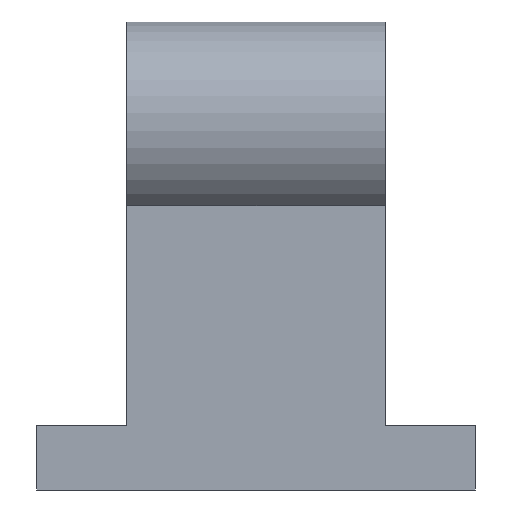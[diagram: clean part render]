
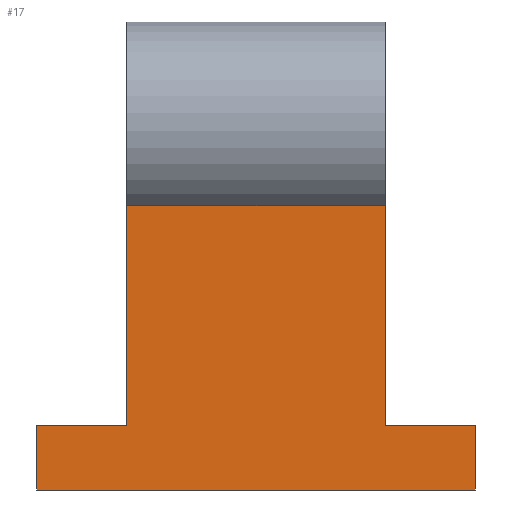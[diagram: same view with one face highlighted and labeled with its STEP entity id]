
A CAD part, left-side view. The second image highlights one B-rep face of the part: STEP entity #17.
In plain terms, the highlighted planar face has unit normal (-1, 0, 0).
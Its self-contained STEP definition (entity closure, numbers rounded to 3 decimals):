
#17 = ADVANCED_FACE('',(#18),#32,.F.);
#18 = FACE_BOUND('',#19,.F.);
#19 = EDGE_LOOP('',(#20,#55,#83,#111,#139,#162,#190,#216));
#20 = ORIENTED_EDGE('',*,*,#21,.F.);
#21 = EDGE_CURVE('',#22,#24,#26,.T.);
#22 = VERTEX_POINT('',#23);
#23 = CARTESIAN_POINT('',(-42.75,-34.,186.));
#24 = VERTEX_POINT('',#25);
#25 = CARTESIAN_POINT('',(-42.75,-20.,186.));
#26 = SURFACE_CURVE('',#27,(#31,#43),.PCURVE_S1.);
#27 = LINE('',#28,#29);
#28 = CARTESIAN_POINT('',(-42.75,-34.,186.));
#29 = VECTOR('',#30,1.);
#30 = DIRECTION('',(0.,1.,0.));
#31 = PCURVE('',#32,#37);
#32 = PLANE('',#33);
#33 = AXIS2_PLACEMENT_3D('',#34,#35,#36);
#34 = CARTESIAN_POINT('',(-42.75,-34.,176.));
#35 = DIRECTION('',(1.,0.,0.));
#36 = DIRECTION('',(0.,0.,1.));
#37 = DEFINITIONAL_REPRESENTATION('',(#38),#42);
#38 = LINE('',#39,#40);
#39 = CARTESIAN_POINT('',(10.,0.));
#40 = VECTOR('',#41,1.);
#41 = DIRECTION('',(0.,-1.));
#42 = ( GEOMETRIC_REPRESENTATION_CONTEXT(2) 
PARAMETRIC_REPRESENTATION_CONTEXT() REPRESENTATION_CONTEXT('2D SPACE',''
  ) );
#43 = PCURVE('',#44,#49);
#44 = PLANE('',#45);
#45 = AXIS2_PLACEMENT_3D('',#46,#47,#48);
#46 = CARTESIAN_POINT('',(-42.75,-34.,186.));
#47 = DIRECTION('',(0.,0.,1.));
#48 = DIRECTION('',(1.,0.,0.));
#49 = DEFINITIONAL_REPRESENTATION('',(#50),#54);
#50 = LINE('',#51,#52);
#51 = CARTESIAN_POINT('',(0.,0.));
#52 = VECTOR('',#53,1.);
#53 = DIRECTION('',(0.,1.));
#54 = ( GEOMETRIC_REPRESENTATION_CONTEXT(2) 
PARAMETRIC_REPRESENTATION_CONTEXT() REPRESENTATION_CONTEXT('2D SPACE',''
  ) );
#55 = ORIENTED_EDGE('',*,*,#56,.F.);
#56 = EDGE_CURVE('',#57,#22,#59,.T.);
#57 = VERTEX_POINT('',#58);
#58 = CARTESIAN_POINT('',(-42.75,-34.,176.));
#59 = SURFACE_CURVE('',#60,(#64,#71),.PCURVE_S1.);
#60 = LINE('',#61,#62);
#61 = CARTESIAN_POINT('',(-42.75,-34.,176.));
#62 = VECTOR('',#63,1.);
#63 = DIRECTION('',(0.,0.,1.));
#64 = PCURVE('',#32,#65);
#65 = DEFINITIONAL_REPRESENTATION('',(#66),#70);
#66 = LINE('',#67,#68);
#67 = CARTESIAN_POINT('',(0.,0.));
#68 = VECTOR('',#69,1.);
#69 = DIRECTION('',(1.,0.));
#70 = ( GEOMETRIC_REPRESENTATION_CONTEXT(2) 
PARAMETRIC_REPRESENTATION_CONTEXT() REPRESENTATION_CONTEXT('2D SPACE',''
  ) );
#71 = PCURVE('',#72,#77);
#72 = PLANE('',#73);
#73 = AXIS2_PLACEMENT_3D('',#74,#75,#76);
#74 = CARTESIAN_POINT('',(-42.75,-34.,176.));
#75 = DIRECTION('',(0.,1.,0.));
#76 = DIRECTION('',(0.,0.,1.));
#77 = DEFINITIONAL_REPRESENTATION('',(#78),#82);
#78 = LINE('',#79,#80);
#79 = CARTESIAN_POINT('',(0.,0.));
#80 = VECTOR('',#81,1.);
#81 = DIRECTION('',(1.,0.));
#82 = ( GEOMETRIC_REPRESENTATION_CONTEXT(2) 
PARAMETRIC_REPRESENTATION_CONTEXT() REPRESENTATION_CONTEXT('2D SPACE',''
  ) );
#83 = ORIENTED_EDGE('',*,*,#84,.T.);
#84 = EDGE_CURVE('',#57,#85,#87,.T.);
#85 = VERTEX_POINT('',#86);
#86 = CARTESIAN_POINT('',(-42.75,34.,176.));
#87 = SURFACE_CURVE('',#88,(#92,#99),.PCURVE_S1.);
#88 = LINE('',#89,#90);
#89 = CARTESIAN_POINT('',(-42.75,-34.,176.));
#90 = VECTOR('',#91,1.);
#91 = DIRECTION('',(0.,1.,0.));
#92 = PCURVE('',#32,#93);
#93 = DEFINITIONAL_REPRESENTATION('',(#94),#98);
#94 = LINE('',#95,#96);
#95 = CARTESIAN_POINT('',(0.,0.));
#96 = VECTOR('',#97,1.);
#97 = DIRECTION('',(0.,-1.));
#98 = ( GEOMETRIC_REPRESENTATION_CONTEXT(2) 
PARAMETRIC_REPRESENTATION_CONTEXT() REPRESENTATION_CONTEXT('2D SPACE',''
  ) );
#99 = PCURVE('',#100,#105);
#100 = PLANE('',#101);
#101 = AXIS2_PLACEMENT_3D('',#102,#103,#104);
#102 = CARTESIAN_POINT('',(-42.75,-34.,176.));
#103 = DIRECTION('',(0.,0.,1.));
#104 = DIRECTION('',(1.,0.,0.));
#105 = DEFINITIONAL_REPRESENTATION('',(#106),#110);
#106 = LINE('',#107,#108);
#107 = CARTESIAN_POINT('',(0.,0.));
#108 = VECTOR('',#109,1.);
#109 = DIRECTION('',(0.,1.));
#110 = ( GEOMETRIC_REPRESENTATION_CONTEXT(2) 
PARAMETRIC_REPRESENTATION_CONTEXT() REPRESENTATION_CONTEXT('2D SPACE',''
  ) );
#111 = ORIENTED_EDGE('',*,*,#112,.T.);
#112 = EDGE_CURVE('',#85,#113,#115,.T.);
#113 = VERTEX_POINT('',#114);
#114 = CARTESIAN_POINT('',(-42.75,34.,186.));
#115 = SURFACE_CURVE('',#116,(#120,#127),.PCURVE_S1.);
#116 = LINE('',#117,#118);
#117 = CARTESIAN_POINT('',(-42.75,34.,176.));
#118 = VECTOR('',#119,1.);
#119 = DIRECTION('',(0.,0.,1.));
#120 = PCURVE('',#32,#121);
#121 = DEFINITIONAL_REPRESENTATION('',(#122),#126);
#122 = LINE('',#123,#124);
#123 = CARTESIAN_POINT('',(0.,-68.));
#124 = VECTOR('',#125,1.);
#125 = DIRECTION('',(1.,0.));
#126 = ( GEOMETRIC_REPRESENTATION_CONTEXT(2) 
PARAMETRIC_REPRESENTATION_CONTEXT() REPRESENTATION_CONTEXT('2D SPACE',''
  ) );
#127 = PCURVE('',#128,#133);
#128 = PLANE('',#129);
#129 = AXIS2_PLACEMENT_3D('',#130,#131,#132);
#130 = CARTESIAN_POINT('',(-42.75,34.,176.));
#131 = DIRECTION('',(0.,1.,0.));
#132 = DIRECTION('',(0.,0.,1.));
#133 = DEFINITIONAL_REPRESENTATION('',(#134),#138);
#134 = LINE('',#135,#136);
#135 = CARTESIAN_POINT('',(0.,0.));
#136 = VECTOR('',#137,1.);
#137 = DIRECTION('',(1.,0.));
#138 = ( GEOMETRIC_REPRESENTATION_CONTEXT(2) 
PARAMETRIC_REPRESENTATION_CONTEXT() REPRESENTATION_CONTEXT('2D SPACE',''
  ) );
#139 = ORIENTED_EDGE('',*,*,#140,.F.);
#140 = EDGE_CURVE('',#141,#113,#143,.T.);
#141 = VERTEX_POINT('',#142);
#142 = CARTESIAN_POINT('',(-42.75,20.,186.));
#143 = SURFACE_CURVE('',#144,(#148,#155),.PCURVE_S1.);
#144 = LINE('',#145,#146);
#145 = CARTESIAN_POINT('',(-42.75,-34.,186.));
#146 = VECTOR('',#147,1.);
#147 = DIRECTION('',(0.,1.,0.));
#148 = PCURVE('',#32,#149);
#149 = DEFINITIONAL_REPRESENTATION('',(#150),#154);
#150 = LINE('',#151,#152);
#151 = CARTESIAN_POINT('',(10.,0.));
#152 = VECTOR('',#153,1.);
#153 = DIRECTION('',(0.,-1.));
#154 = ( GEOMETRIC_REPRESENTATION_CONTEXT(2) 
PARAMETRIC_REPRESENTATION_CONTEXT() REPRESENTATION_CONTEXT('2D SPACE',''
  ) );
#155 = PCURVE('',#44,#156);
#156 = DEFINITIONAL_REPRESENTATION('',(#157),#161);
#157 = LINE('',#158,#159);
#158 = CARTESIAN_POINT('',(0.,0.));
#159 = VECTOR('',#160,1.);
#160 = DIRECTION('',(0.,1.));
#161 = ( GEOMETRIC_REPRESENTATION_CONTEXT(2) 
PARAMETRIC_REPRESENTATION_CONTEXT() REPRESENTATION_CONTEXT('2D SPACE',''
  ) );
#162 = ORIENTED_EDGE('',*,*,#163,.T.);
#163 = EDGE_CURVE('',#141,#164,#166,.T.);
#164 = VERTEX_POINT('',#165);
#165 = CARTESIAN_POINT('',(-42.75,20.,220.05));
#166 = SURFACE_CURVE('',#167,(#171,#178),.PCURVE_S1.);
#167 = LINE('',#168,#169);
#168 = CARTESIAN_POINT('',(-42.75,20.,185.));
#169 = VECTOR('',#170,1.);
#170 = DIRECTION('',(0.,0.,1.));
#171 = PCURVE('',#32,#172);
#172 = DEFINITIONAL_REPRESENTATION('',(#173),#177);
#173 = LINE('',#174,#175);
#174 = CARTESIAN_POINT('',(9.,-54.));
#175 = VECTOR('',#176,1.);
#176 = DIRECTION('',(1.,0.));
#177 = ( GEOMETRIC_REPRESENTATION_CONTEXT(2) 
PARAMETRIC_REPRESENTATION_CONTEXT() REPRESENTATION_CONTEXT('2D SPACE',''
  ) );
#178 = PCURVE('',#179,#184);
#179 = PLANE('',#180);
#180 = AXIS2_PLACEMENT_3D('',#181,#182,#183);
#181 = CARTESIAN_POINT('',(-42.75,20.,185.));
#182 = DIRECTION('',(0.,1.,0.));
#183 = DIRECTION('',(0.,0.,1.));
#184 = DEFINITIONAL_REPRESENTATION('',(#185),#189);
#185 = LINE('',#186,#187);
#186 = CARTESIAN_POINT('',(0.,0.));
#187 = VECTOR('',#188,1.);
#188 = DIRECTION('',(1.,0.));
#189 = ( GEOMETRIC_REPRESENTATION_CONTEXT(2) 
PARAMETRIC_REPRESENTATION_CONTEXT() REPRESENTATION_CONTEXT('2D SPACE',''
  ) );
#190 = ORIENTED_EDGE('',*,*,#191,.T.);
#191 = EDGE_CURVE('',#164,#192,#194,.T.);
#192 = VERTEX_POINT('',#193);
#193 = CARTESIAN_POINT('',(-42.75,-20.,220.05));
#194 = SURFACE_CURVE('',#195,(#199,#205),.PCURVE_S1.);
#195 = LINE('',#196,#197);
#196 = CARTESIAN_POINT('',(-42.75,-20.,220.05));
#197 = VECTOR('',#198,1.);
#198 = DIRECTION('',(0.,-1.,-0.));
#199 = PCURVE('',#32,#200);
#200 = DEFINITIONAL_REPRESENTATION('',(#201),#204);
#201 = B_SPLINE_CURVE_WITH_KNOTS('',1,(#202,#203),.UNSPECIFIED.,.F.,.F.,
  (2,2),(-40.,0.),.PIECEWISE_BEZIER_KNOTS.);
#202 = CARTESIAN_POINT('',(44.05,-54.));
#203 = CARTESIAN_POINT('',(44.05,-14.));
#204 = ( GEOMETRIC_REPRESENTATION_CONTEXT(2) 
PARAMETRIC_REPRESENTATION_CONTEXT() REPRESENTATION_CONTEXT('2D SPACE',''
  ) );
#205 = PCURVE('',#206,#211);
#206 = CYLINDRICAL_SURFACE('',#207,16.);
#207 = AXIS2_PLACEMENT_3D('',#208,#209,#210);
#208 = CARTESIAN_POINT('',(-32.75,-20.,232.54));
#209 = DIRECTION('',(0.,-1.,-0.));
#210 = DIRECTION('',(1.,0.,0.));
#211 = DEFINITIONAL_REPRESENTATION('',(#212),#215);
#212 = B_SPLINE_CURVE_WITH_KNOTS('',1,(#213,#214),.UNSPECIFIED.,.F.,.F.,
  (2,2),(-40.,0.),.PIECEWISE_BEZIER_KNOTS.);
#213 = CARTESIAN_POINT('',(-2.246,-40.));
#214 = CARTESIAN_POINT('',(-2.246,0.));
#215 = ( GEOMETRIC_REPRESENTATION_CONTEXT(2) 
PARAMETRIC_REPRESENTATION_CONTEXT() REPRESENTATION_CONTEXT('2D SPACE',''
  ) );
#216 = ORIENTED_EDGE('',*,*,#217,.F.);
#217 = EDGE_CURVE('',#24,#192,#218,.T.);
#218 = SURFACE_CURVE('',#219,(#223,#230),.PCURVE_S1.);
#219 = LINE('',#220,#221);
#220 = CARTESIAN_POINT('',(-42.75,-20.,185.));
#221 = VECTOR('',#222,1.);
#222 = DIRECTION('',(0.,0.,1.));
#223 = PCURVE('',#32,#224);
#224 = DEFINITIONAL_REPRESENTATION('',(#225),#229);
#225 = LINE('',#226,#227);
#226 = CARTESIAN_POINT('',(9.,-14.));
#227 = VECTOR('',#228,1.);
#228 = DIRECTION('',(1.,0.));
#229 = ( GEOMETRIC_REPRESENTATION_CONTEXT(2) 
PARAMETRIC_REPRESENTATION_CONTEXT() REPRESENTATION_CONTEXT('2D SPACE',''
  ) );
#230 = PCURVE('',#231,#236);
#231 = PLANE('',#232);
#232 = AXIS2_PLACEMENT_3D('',#233,#234,#235);
#233 = CARTESIAN_POINT('',(-42.75,-20.,185.));
#234 = DIRECTION('',(0.,1.,0.));
#235 = DIRECTION('',(0.,0.,1.));
#236 = DEFINITIONAL_REPRESENTATION('',(#237),#241);
#237 = LINE('',#238,#239);
#238 = CARTESIAN_POINT('',(0.,0.));
#239 = VECTOR('',#240,1.);
#240 = DIRECTION('',(1.,0.));
#241 = ( GEOMETRIC_REPRESENTATION_CONTEXT(2) 
PARAMETRIC_REPRESENTATION_CONTEXT() REPRESENTATION_CONTEXT('2D SPACE',''
  ) );
